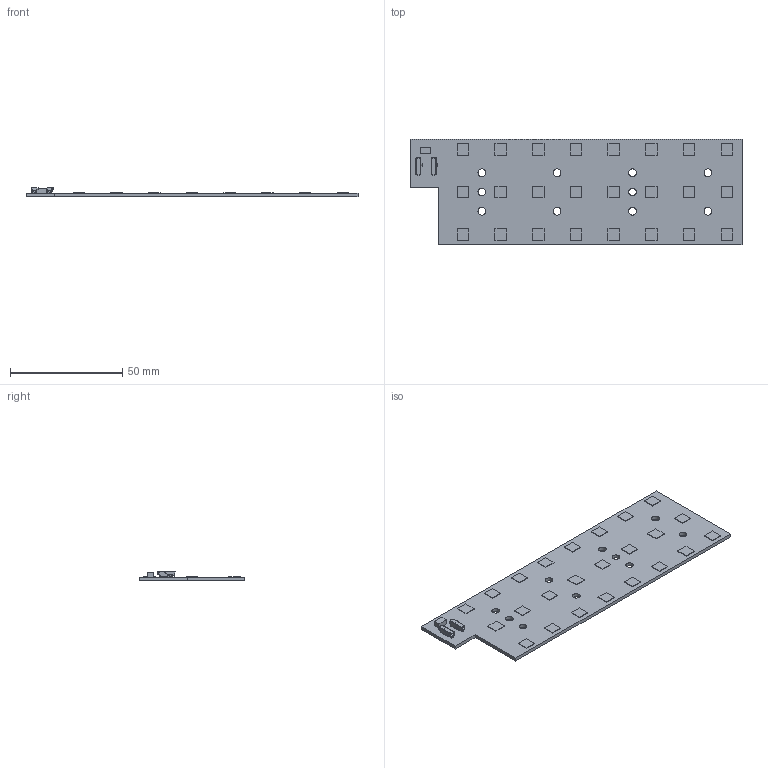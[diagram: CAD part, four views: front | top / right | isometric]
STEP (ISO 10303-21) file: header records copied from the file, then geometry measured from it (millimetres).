
FILE_DESCRIPTION(('Open CASCADE Model'),'2;1');
FILE_NAME('Open CASCADE Shape Model','2025-11-18T13:38:23',('Author'),( 'Open CASCADE'),'Open CASCADE STEP processor 7.5','Open CASCADE 7.5' ,'Unknown');
FILE_SCHEMA(('AUTOMOTIVE_DESIGN { 1 0 10303 214 1 1 1 1 }'));
Length unit declared in the file: millimetre
Products named in the file (41): PCB; Board; Open CASCADE STEP translator 7.5 5.1.1; TVS; 6591467776; Extruded; LED24; 6560600240; LED23; 7274493296; LED22; LED21; 7274493776; LED20; LED19; LED18; LED17; LED16; LED15; LED14; LED13; LED12; LED11; LED10; LED9; LED8; LED7; LED6; LED5; LED4; LED3; 5090773392; LED2; LED1; CONN-; 2065-100_998-403; CONN+
Assembly tree (61 placements, depth 4):
  PCB
    Board
      Open CASCADE STEP translator 7.5 5.1.1
    TVS
      6591467776
        Extruded
    LED24
      6560600240
        Extruded
    LED23
      7274493296
        Extruded
    LED22
      7274493296
        Extruded
    LED21
      7274493776
        Extruded
    LED20
      7274493776
        Extruded
    LED19
      7274493776
        Extruded
    LED18
      7274493296
        Extruded
    LED17
      7274493296
        Extruded
    LED16
      7274493296
        Extruded
    LED15
      7274493296
        Extruded
    LED14
      7274493296
        Extruded
    LED13
      7274493296
        Extruded
    LED12
      7274493296
        Extruded
    LED11
      7274493296
        Extruded
    LED10
      7274493296
        Extruded
    LED9
      7274493776
        Extruded
    LED8
      7274493776
        Extruded
    LED7
      7274493776
        Extruded
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Bounding box: 148 x 47 x 4.3 mm (x, y, z)
Volume: 10696.2 mm3; surface area: 15630.1 mm2
Topology: 28 solids, 28 shells, 534 faces, 1462 edges, 970 vertices
Faces by surface type: plane 378, cylinder 156
Full cylindrical faces by diameter (mm): 3.4 x10
Entity records: 8337 total; most frequent: DIRECTION 1392, CARTESIAN_POINT 1357, ORIENTED_EDGE 1282, EDGE_CURVE 641, AXIS2_PLACEMENT_3D 468, LINE 456, VECTOR 456, VERTEX_POINT 425
